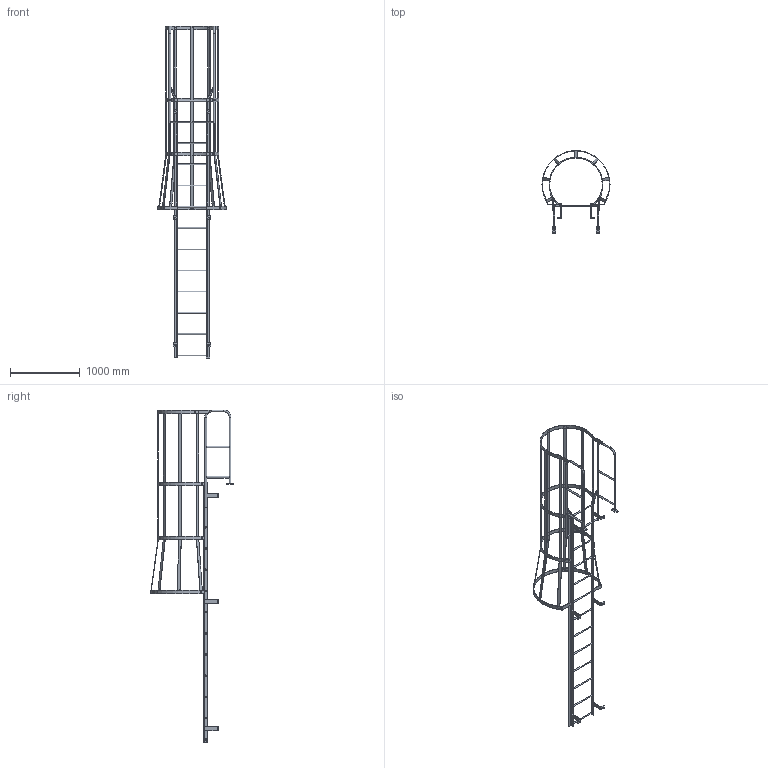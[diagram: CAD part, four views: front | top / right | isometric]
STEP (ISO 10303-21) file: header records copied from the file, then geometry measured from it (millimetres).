
FILE_DESCRIPTION(/* description */ (''),/* implementation_level */ '2;1');
FILE_NAME(/* name */ 'P:\MIKEL & KAREN\3570263 F13WC SIMPLIFIED PART.stp',/* time_stamp */ '2018-07-02T15:56:47-04:00',/* author */ ('stephanie'),/* organization */ (''),/* preprocessor_version */ 'ST-DEVELOPER v16.1',/* originating_system */ 'Autodesk Inventor 2016',/* authorisation */ '');
FILE_SCHEMA (('AUTOMOTIVE_DESIGN { 1 0 10303 214 3 1 1 }'));
Length unit declared in the file: centimetre
Products named in the file (1): 3570263 F13WC SIMPLIFIED PART
Bounding box: 977.88 x 1195.62 x 4772.02 mm (x, y, z)
Volume: 13658751.7 mm3; surface area: 5532622.2 mm2
Topology: 20 solids, 20 shells, 458 faces, 1355 edges, 888 vertices
Faces by surface type: plane 289, cylinder 161, torus 8
Full cylindrical faces by diameter (mm): 10.319 x4, 14.287 x6, 19.05 x13, 22.098 x10, 22.225 x26, 25.4 x10
Entity records: 15763 total; most frequent: CARTESIAN_POINT 2951, DIRECTION 2542, ORIENTED_EDGE 2524, EDGE_CURVE 1240, AXIS2_PLACEMENT_3D 859, VERTEX_POINT 852, LINE 824, VECTOR 824
